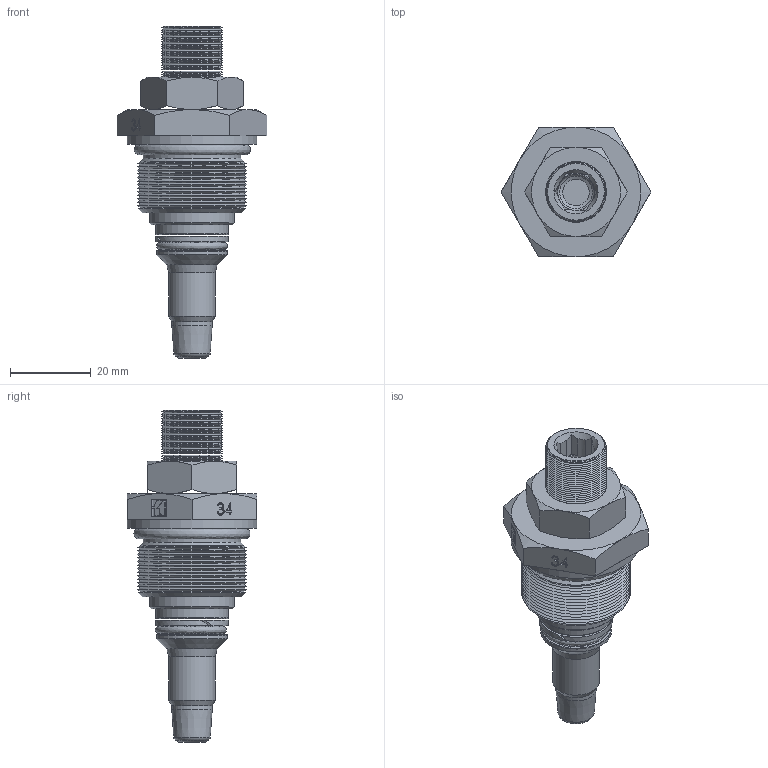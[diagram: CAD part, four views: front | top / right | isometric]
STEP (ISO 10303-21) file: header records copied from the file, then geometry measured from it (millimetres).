
FILE_DESCRIPTION (( 'STEP AP214' ), '1' );
FILE_NAME ('2243-2-34.STEP', '2023-03-08T15:36:32', ( '' ), ( '' ), 'SwSTEP 2.0', 'SolidWorks 2022', '' );
FILE_SCHEMA (( 'AUTOMOTIVE_DESIGN' ));
Length unit declared in the file: millimetre
Products named in the file (1): 2243-2-34
Bounding box: 36.95 x 32 x 82 mm (x, y, z)
Surface area: 9718 mm2 (no closed solid volume)
Topology: 0 solids, 14 shells, 285 faces, 746 edges, 469 vertices
Faces by surface type: plane 122, cone 94, bspline 50, cylinder 15, torus 4
Full cylindrical faces by diameter (mm): 9.2 x1, 10 x1, 11.482 x1, 15.1 x1, 17.5 x1, 18 x1, 21 x1, 24 x1, 32 x1
Entity records: 13959 total; most frequent: CARTESIAN_POINT 4666, ORIENTED_EDGE 1180, DIRECTION 1122, EDGE_CURVE 635, VERTEX_POINT 455, EDGE_LOOP 399, AXIS2_PLACEMENT_3D 393, LINE 336
